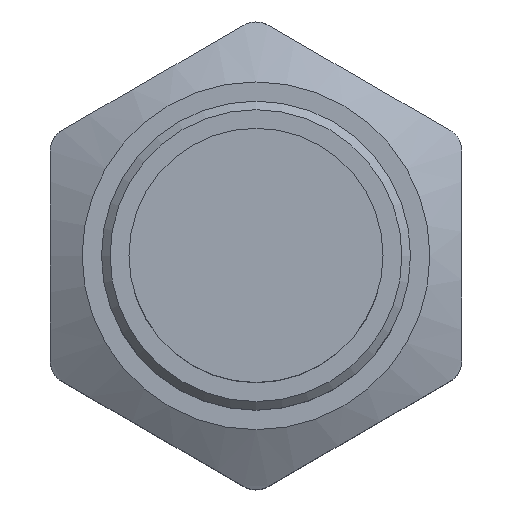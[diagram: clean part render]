
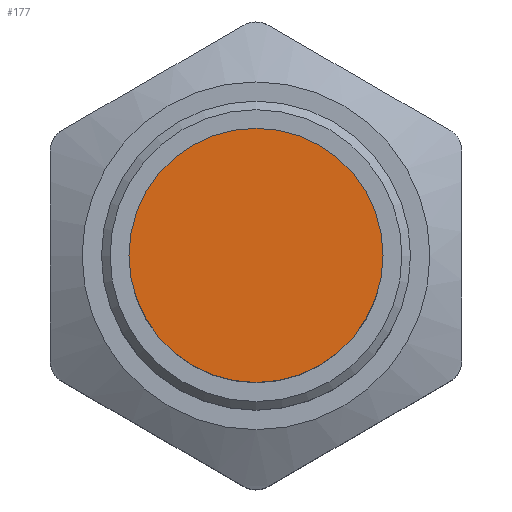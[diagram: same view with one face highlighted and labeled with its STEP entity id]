
A CAD part, top view. The second image highlights one B-rep face of the part: STEP entity #177.
In plain terms, the highlighted planar face has unit normal (0, 0, 1).
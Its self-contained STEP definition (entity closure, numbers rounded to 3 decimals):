
#139=FACE_OUTER_BOUND('',#265,.T.);
#177=ADVANCED_FACE('',(#139),#205,.T.);
#205=PLANE('',#643);
#265=EDGE_LOOP('',(#315));
#315=ORIENTED_EDGE('',*,*,#537,.T.);
#469=VERTEX_POINT('',#819);
#537=EDGE_CURVE('',#469,#469,#617,.T.);
#617=CIRCLE('',#641,7.4);
#641=AXIS2_PLACEMENT_3D('',#818,#706,#707);
#643=AXIS2_PLACEMENT_3D('',#821,#710,#711);
#706=DIRECTION('',(0.,0.,1.));
#707=DIRECTION('',(1.,0.,0.));
#710=DIRECTION('',(0.,0.,1.));
#711=DIRECTION('',(-1.,0.,0.));
#818=CARTESIAN_POINT('',(-0.78,-4.206,69.912));
#819=CARTESIAN_POINT('',(6.62,-4.206,69.912));
#821=CARTESIAN_POINT('',(-0.78,-4.206,69.912));
